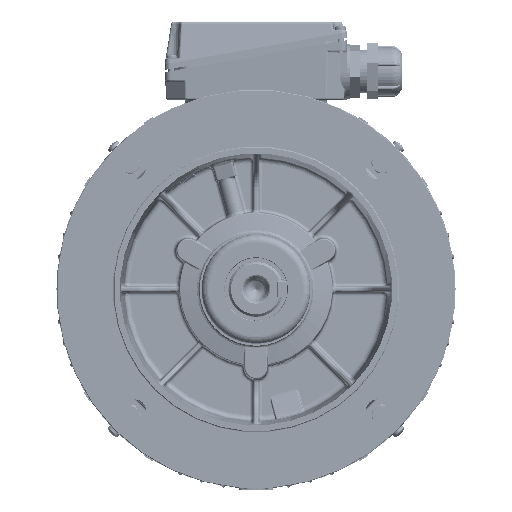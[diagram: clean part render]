
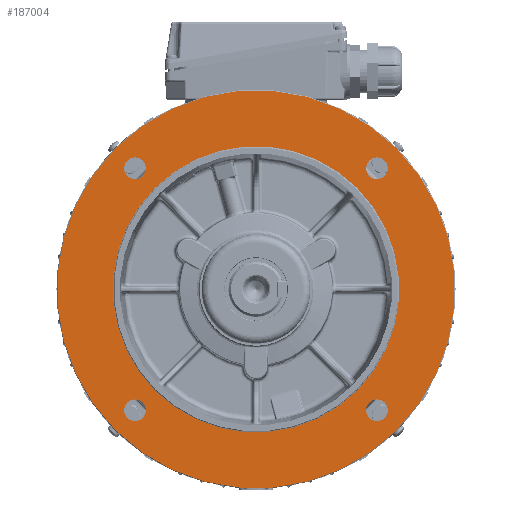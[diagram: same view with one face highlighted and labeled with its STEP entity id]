
A CAD part, front view. The second image highlights one B-rep face of the part: STEP entity #187004.
In plain terms, the highlighted planar face has unit normal (0, -1, 0) as drawn and (0, 0, 1) by its records, which use the part's own axes.
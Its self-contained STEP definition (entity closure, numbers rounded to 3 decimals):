
#3226=PLANE('',#196795);
#34417=ORIENTED_EDGE('',*,*,#80616,.F.);
#34418=ORIENTED_EDGE('',*,*,#80617,.F.);
#34419=ORIENTED_EDGE('',*,*,#80618,.F.);
#34420=ORIENTED_EDGE('',*,*,#80619,.F.);
#34421=ORIENTED_EDGE('',*,*,#80620,.T.);
#34422=ORIENTED_EDGE('',*,*,#80615,.F.);
#80615=EDGE_CURVE('',#103845,#103845,#118635,.T.);
#80616=EDGE_CURVE('',#103846,#103846,#118636,.T.);
#80617=EDGE_CURVE('',#103847,#103847,#118637,.T.);
#80618=EDGE_CURVE('',#103848,#103848,#118638,.T.);
#80619=EDGE_CURVE('',#103849,#103849,#118639,.T.);
#80620=EDGE_CURVE('',#103850,#103850,#118640,.T.);
#103845=VERTEX_POINT('',#261929);
#103846=VERTEX_POINT('',#261932);
#103847=VERTEX_POINT('',#261934);
#103848=VERTEX_POINT('',#261936);
#103849=VERTEX_POINT('',#261938);
#103850=VERTEX_POINT('',#261940);
#118635=CIRCLE('',#196794,125.5);
#118636=CIRCLE('',#196796,9.5);
#118637=CIRCLE('',#196797,9.5);
#118638=CIRCLE('',#196798,9.5);
#118639=CIRCLE('',#196799,9.5);
#118640=CIRCLE('',#196800,174.495);
#127150=EDGE_LOOP('',(#34417));
#127151=EDGE_LOOP('',(#34418));
#127152=EDGE_LOOP('',(#34419));
#127153=EDGE_LOOP('',(#34420));
#127154=EDGE_LOOP('',(#34421));
#127155=EDGE_LOOP('',(#34422));
#137803=FACE_BOUND('',#127150,.T.);
#137804=FACE_BOUND('',#127151,.T.);
#137805=FACE_BOUND('',#127152,.T.);
#137806=FACE_BOUND('',#127153,.T.);
#137807=FACE_BOUND('',#127154,.T.);
#137808=FACE_BOUND('',#127155,.T.);
#187004=ADVANCED_FACE('',(#137803,#137804,#137805,#137806,#137807,#137808),
#3226,.T.);
#196794=AXIS2_PLACEMENT_3D('',#261928,#214071,#214072);
#196795=AXIS2_PLACEMENT_3D('',#261930,#214073,#214074);
#196796=AXIS2_PLACEMENT_3D('',#261931,#214075,#214076);
#196797=AXIS2_PLACEMENT_3D('',#261933,#214077,#214078);
#196798=AXIS2_PLACEMENT_3D('',#261935,#214079,#214080);
#196799=AXIS2_PLACEMENT_3D('',#261937,#214081,#214082);
#196800=AXIS2_PLACEMENT_3D('',#261939,#214083,#214084);
#214071=DIRECTION('',(0.,0.,1.));
#214072=DIRECTION('',(0.,-1.,0.));
#214073=DIRECTION('',(0.,0.,1.));
#214074=DIRECTION('',(0.,-1.,0.));
#214075=DIRECTION('',(0.,0.,1.));
#214076=DIRECTION('',(1.,0.,0.));
#214077=DIRECTION('',(0.,0.,1.));
#214078=DIRECTION('',(0.,-1.,0.));
#214079=DIRECTION('',(0.,0.,1.));
#214080=DIRECTION('',(-1.,0.,0.));
#214081=DIRECTION('',(0.,0.,1.));
#214082=DIRECTION('',(0.,1.,0.));
#214083=DIRECTION('',(0.,0.,1.));
#214084=DIRECTION('',(0.,-1.,0.));
#261928=CARTESIAN_POINT('',(0.,0.,83.));
#261929=CARTESIAN_POINT('',(0.,-125.5,83.));
#261930=CARTESIAN_POINT('',(0.,-125.5,83.));
#261931=CARTESIAN_POINT('',(0.,150.,83.));
#261932=CARTESIAN_POINT('',(9.5,150.,83.));
#261933=CARTESIAN_POINT('',(150.,0.,83.));
#261934=CARTESIAN_POINT('',(150.,-9.5,83.));
#261935=CARTESIAN_POINT('',(0.,-150.,83.));
#261936=CARTESIAN_POINT('',(-9.5,-150.,83.));
#261937=CARTESIAN_POINT('',(-150.,0.,83.));
#261938=CARTESIAN_POINT('',(-150.,9.5,83.));
#261939=CARTESIAN_POINT('',(0.,0.,83.));
#261940=CARTESIAN_POINT('',(0.,-174.495,83.));
